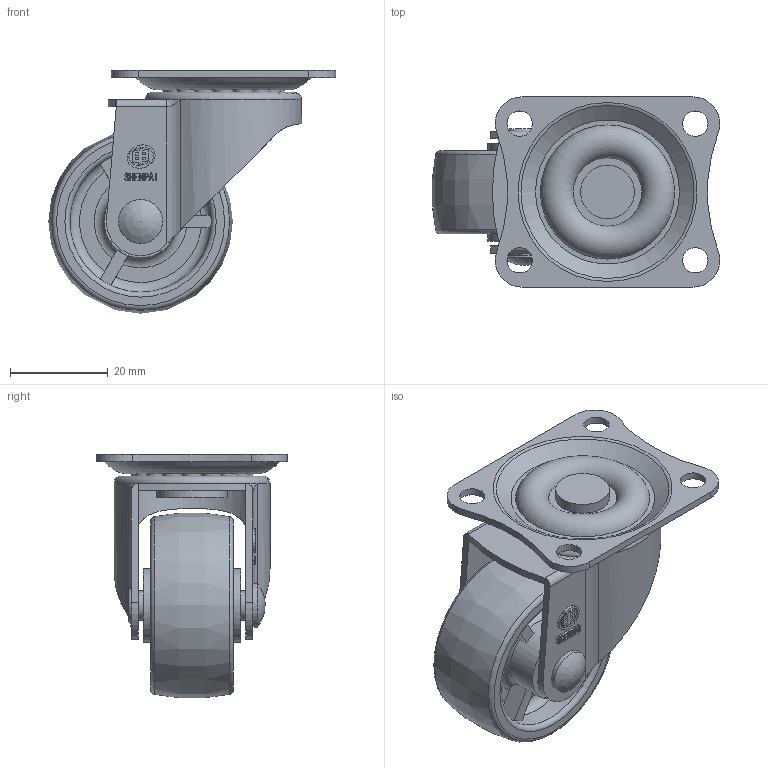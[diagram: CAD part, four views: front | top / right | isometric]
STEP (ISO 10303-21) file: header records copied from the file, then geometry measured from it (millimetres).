
FILE_DESCRIPTION(/* description */ (''),/* implementation_level */ '2;1');
FILE_NAME(/* name */ '10A07_1.5_F.stp',/* time_stamp */ '2022-10-06T13:42:36+08:00',/* author */ (''),/* organization */ (''),/* preprocessor_version */ 'ST-DEVELOPER v14',/* originating_system */ 'SIEMENS PLM Software NX 8.0',/* authorisation */ '');
FILE_SCHEMA (('AUTOMOTIVE_DESIGN { 1 0 10303 214 3 1 1 1 }'));
Length unit declared in the file: millimetre
Products named in the file (1): 10A07_1.5_F
Bounding box: 58.91 x 39 x 49.91 mm (x, y, z)
Volume: 21178.1 mm3; surface area: 17218.9 mm2
Topology: 1 solids, 1 shells, 344 faces, 982 edges, 675 vertices
Faces by surface type: plane 220, cylinder 69, torus 30, sphere 16, bspline 6, cone 3
Full cylindrical faces by diameter (mm): 5 x1, 5.2 x4, 6 x2, 6.2 x2, 8.5 x1, 8.6 x1, 9 x1, 9.5 x1, 10.2 x1, 11 x1, 12.6 x1, 13 x1, 14.2 x1, 14.5 x1, 15 x3, 29 x2
Entity records: 15007 total; most frequent: CARTESIAN_POINT 6493, ORIENTED_EDGE 1734, DIRECTION 1555, EDGE_CURVE 867, VERTEX_POINT 625, EDGE_LOOP 581, AXIS2_PLACEMENT_3D 563, LINE 429
